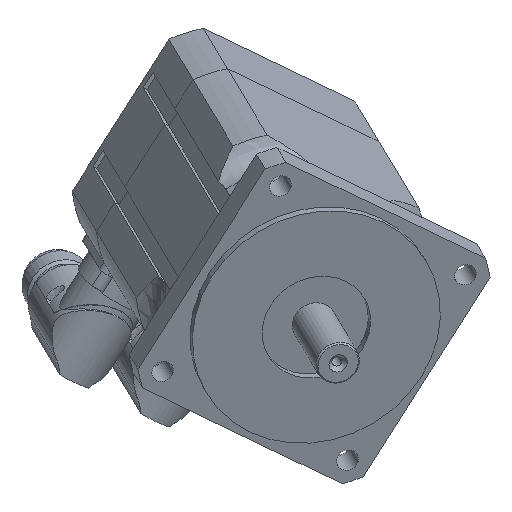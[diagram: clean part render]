
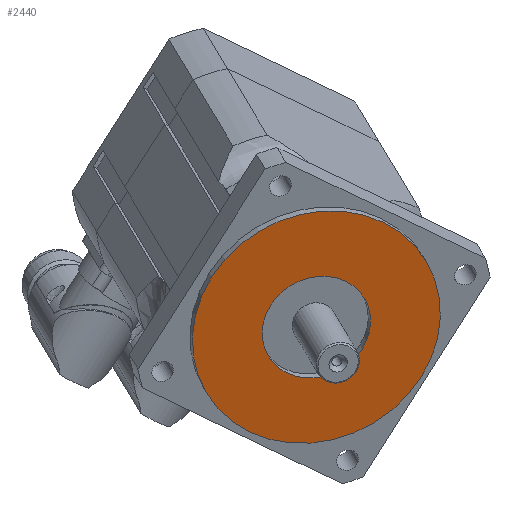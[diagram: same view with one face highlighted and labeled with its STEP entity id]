
A CAD part, isometric view. The second image highlights one B-rep face of the part: STEP entity #2440.
In plain terms, the highlighted planar face has unit normal (-0.497, -0.853, 0.161) as drawn and (0, 0, 1) by its records, which use the part's own axes.
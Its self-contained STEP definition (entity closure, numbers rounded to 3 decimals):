
#254=CIRCLE('',#2591,17.5);
#255=CIRCLE('',#2594,40.);
#431=VERTEX_POINT('',#4051);
#432=VERTEX_POINT('',#4055);
#1066=EDGE_CURVE('',#431,#431,#254,.T.);
#1067=EDGE_CURVE('',#432,#432,#255,.T.);
#1457=ORIENTED_EDGE('',*,*,#1067,.F.);
#1458=ORIENTED_EDGE('',*,*,#1066,.T.);
#2060=EDGE_LOOP('',(#1457));
#2061=EDGE_LOOP('',(#1458));
#2256=FACE_BOUND('',#2060,.T.);
#2257=FACE_BOUND('',#2061,.T.);
#2440=ADVANCED_FACE('',(#2256,#2257),#5160,.F.);
#2591=AXIS2_PLACEMENT_3D('',#4050,#2929,#2930);
#2594=AXIS2_PLACEMENT_3D('',#4054,#2934,#2935);
#2596=AXIS2_PLACEMENT_3D('',#4058,#2938,$);
#2929=DIRECTION('',(0.,0.,-1.));
#2930=DIRECTION('',(-17.5,0.,0.));
#2934=DIRECTION('',(0.,0.,-1.));
#2935=DIRECTION('',(-40.,0.,0.));
#2938=DIRECTION('',(0.,0.,-1.));
#4050=CARTESIAN_POINT('',(0.,0.,177.));
#4051=CARTESIAN_POINT('',(17.5,0.,177.));
#4054=CARTESIAN_POINT('',(0.,0.,177.));
#4055=CARTESIAN_POINT('',(40.,0.,177.));
#4058=CARTESIAN_POINT('',(0.,0.,177.));
#5160=PLANE('',#2596);
